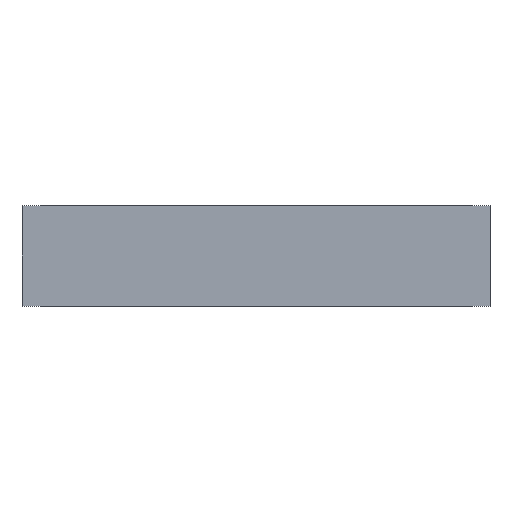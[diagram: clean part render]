
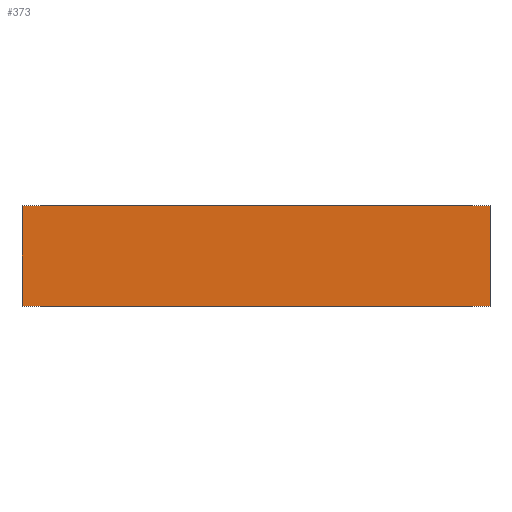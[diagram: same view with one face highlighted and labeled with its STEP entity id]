
A CAD part, front view. The second image highlights one B-rep face of the part: STEP entity #373.
In plain terms, the highlighted planar face has unit normal (0, -1, 0).
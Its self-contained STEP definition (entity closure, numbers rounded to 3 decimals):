
#140 = EDGE_LOOP ( 'NONE', ( #882, #881, #880, #879 ) ) ;
#244 = CARTESIAN_POINT ( 'NONE',  ( -151., 0., 65. ) ) ;
#267 = DIRECTION ( 'NONE',  ( 0., 0., -1. ) ) ;
#279 = CARTESIAN_POINT ( 'NONE',  ( 151., 0., 65. ) ) ;
#287 = DIRECTION ( 'NONE',  ( 1., 0., 0. ) ) ;
#288 = DIRECTION ( 'NONE',  ( 0., 0., -1. ) ) ;
#289 = CARTESIAN_POINT ( 'NONE',  ( -151., 0., 65. ) ) ;
#298 = CARTESIAN_POINT ( 'NONE',  ( -151., 0., 0. ) ) ;
#304 = CARTESIAN_POINT ( 'NONE',  ( 151., 0., 0. ) ) ;
#325 = CARTESIAN_POINT ( 'NONE',  ( -151., 0., 0. ) ) ;
#345 = DIRECTION ( 'NONE',  ( 1., 0., 0. ) ) ;
#346 = CARTESIAN_POINT ( 'NONE',  ( -151., 0., 65. ) ) ;
#373 = ADVANCED_FACE ( 'NONE', ( #846 ), #549, .F. ) ;
#394 = VERTEX_POINT ( 'NONE', #441 ) ;
#425 = VERTEX_POINT ( 'NONE', #244 ) ;
#441 = CARTESIAN_POINT ( 'NONE',  ( 151., 0., 65. ) ) ;
#536 = DIRECTION ( 'NONE',  ( -1., 0., 0. ) ) ;
#537 = DIRECTION ( 'NONE',  ( 0., 1., 0. ) ) ;
#543 = VERTEX_POINT ( 'NONE', #304 ) ;
#545 = CARTESIAN_POINT ( 'NONE',  ( -151., 0., 65. ) ) ;
#547 = VERTEX_POINT ( 'NONE', #325 ) ;
#549 = PLANE ( 'NONE',  #915 ) ;
#619 = EDGE_CURVE ( 'NONE', #425, #394, #747, .T. ) ;
#635 = EDGE_CURVE ( 'NONE', #425, #547, #716, .T. ) ;
#636 = EDGE_CURVE ( 'NONE', #547, #543, #732, .T. ) ;
#642 = EDGE_CURVE ( 'NONE', #394, #543, #703, .T. ) ;
#703 = LINE ( 'NONE', #279, #707 ) ;
#707 = VECTOR ( 'NONE', #267, 1000. ) ;
#714 = VECTOR ( 'NONE', #287, 1000. ) ;
#715 = VECTOR ( 'NONE', #288, 1000. ) ;
#716 = LINE ( 'NONE', #289, #715 ) ;
#732 = LINE ( 'NONE', #298, #714 ) ;
#746 = VECTOR ( 'NONE', #345, 1000. ) ;
#747 = LINE ( 'NONE', #346, #746 ) ;
#846 = FACE_OUTER_BOUND ( 'NONE', #140, .T. ) ;
#879 = ORIENTED_EDGE ( 'NONE', *, *, #635, .T. ) ;
#880 = ORIENTED_EDGE ( 'NONE', *, *, #619, .F. ) ;
#881 = ORIENTED_EDGE ( 'NONE', *, *, #642, .F. ) ;
#882 = ORIENTED_EDGE ( 'NONE', *, *, #636, .T. ) ;
#915 = AXIS2_PLACEMENT_3D ( 'NONE', #545, #537, #536 ) ;
